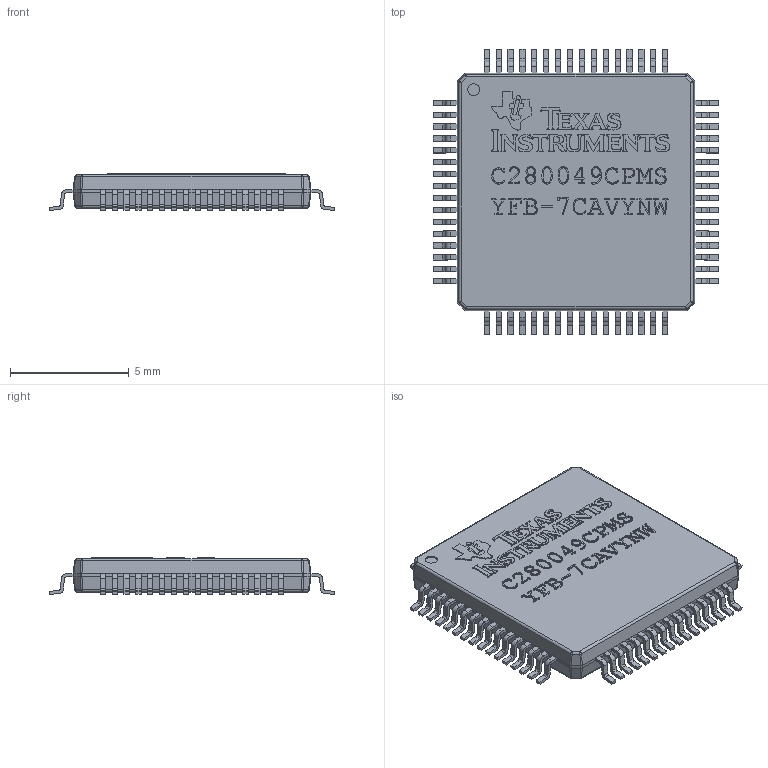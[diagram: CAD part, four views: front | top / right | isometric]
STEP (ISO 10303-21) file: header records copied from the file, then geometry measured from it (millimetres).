
FILE_DESCRIPTION(/* description */ (''),/* implementation_level */ '2;1');
FILE_NAME(/* name */ 'METUPowerLab_TexasInstruments_C2000_C28x_64-LQFP_F280049CPMS.step',/* time_stamp */ '2025-07-16T13:47:54+03:00',/* author */ (''),/* organization */ (''),/* preprocessor_version */ 'ST-DEVELOPER v20.1',/* originating_system */ 'Autodesk Translation Framework v14.10.0.0',/* authorisation */ '');
FILE_SCHEMA (('AUTOMOTIVE_DESIGN { 1 0 10303 214 3 1 1 }'));
Length unit declared in the file: millimetre
Products named in the file (3): PM0064A_ASM; BODY-QFP; LEAD-QFP
Assembly tree (65 placements, depth 2):
  PM0064A_ASM
    BODY-QFP
    LEAD-QFP  x64
Bounding box: 12.02 x 12.02 x 1.55 mm (x, y, z)
Volume: 140.8 mm3; surface area: 326.7 mm2
Topology: 65 solids, 65 shells, 2128 faces, 5755 edges, 3810 vertices
Faces by surface type: plane 1141, bspline 674, cylinder 297, sphere 16
Full cylindrical faces by diameter (mm): 0.5 x1
Entity records: 45529 total; most frequent: CARTESIAN_POINT 17951, ORIENTED_EDGE 6974, EDGE_CURVE 3487, DIRECTION 3484, VERTEX_POINT 2298, LINE 2056, VECTOR 2056, EDGE_LOOP 1299
